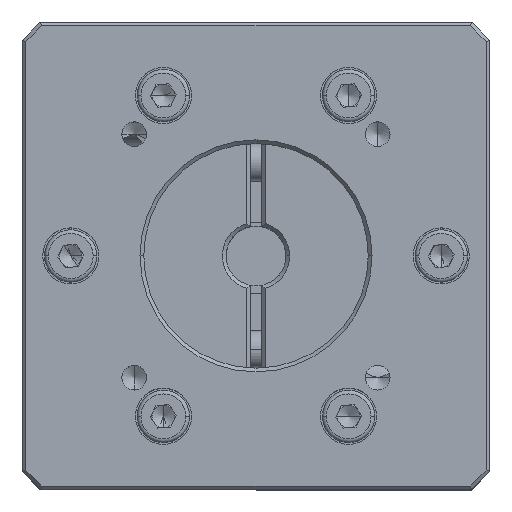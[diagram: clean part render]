
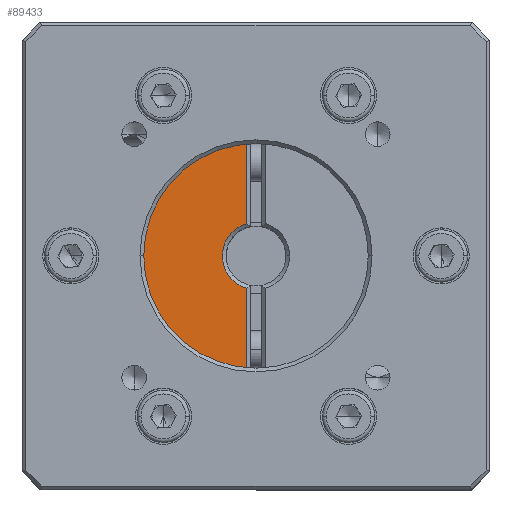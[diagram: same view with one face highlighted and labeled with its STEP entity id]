
A CAD part, top view. The second image highlights one B-rep face of the part: STEP entity #89433.
In plain terms, the highlighted planar face has unit normal (0, 0, 1).
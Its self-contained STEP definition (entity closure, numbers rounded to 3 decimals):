
#9766 = CIRCLE ( 'NONE', #104376, 4.5 ) ;
#10220 = DIRECTION ( 'NONE',  ( 0., 1., 0. ) ) ;
#11509 = CARTESIAN_POINT ( 'NONE',  ( -28.188, -8.922, 185.502 ) ) ;
#11703 = ORIENTED_EDGE ( 'NONE', *, *, #60782, .T. ) ;
#11857 = VERTEX_POINT ( 'NONE', #50099 ) ;
#12021 = AXIS2_PLACEMENT_3D ( 'NONE', #46975, #111132, #56216 ) ;
#12479 = ORIENTED_EDGE ( 'NONE', *, *, #20405, .F. ) ;
#13605 = AXIS2_PLACEMENT_3D ( 'NONE', #75457, #20423, #84651 ) ;
#20405 = EDGE_CURVE ( 'NONE', #11857, #52436, #88732, .T. ) ;
#20423 = DIRECTION ( 'NONE',  ( 0., 0., -1. ) ) ;
#20628 = CARTESIAN_POINT ( 'NONE',  ( -28.188, -8.922, 185.502 ) ) ;
#20727 = DIRECTION ( 'NONE',  ( 0., 1., 0. ) ) ;
#24199 = FACE_OUTER_BOUND ( 'NONE', #91348, .T. ) ;
#29777 = CARTESIAN_POINT ( 'NONE',  ( -28.188, 14.587, 185.502 ) ) ;
#37046 = DIRECTION ( 'NONE',  ( 0., 0., -1. ) ) ;
#37691 = VERTEX_POINT ( 'NONE', #85266 ) ;
#40625 = VECTOR ( 'NONE', #10220, 1000. ) ;
#46975 = CARTESIAN_POINT ( 'NONE',  ( -26.938, 27.764, 185.502 ) ) ;
#50099 = CARTESIAN_POINT ( 'NONE',  ( -28.188, -6.69, 185.502 ) ) ;
#52053 = DIRECTION ( 'NONE',  ( 0., 0., 1. ) ) ;
#52436 = VERTEX_POINT ( 'NONE', #59890 ) ;
#55662 = EDGE_CURVE ( 'NONE', #59947, #100640, #9766, .T. ) ;
#56216 = DIRECTION ( 'NONE',  ( -1., 0., 0. ) ) ;
#59890 = CARTESIAN_POINT ( 'NONE',  ( -43.938, 10.264, 185.502 ) ) ;
#59947 = VERTEX_POINT ( 'NONE', #29777 ) ;
#60782 = EDGE_CURVE ( 'NONE', #11857, #100640, #89378, .T. ) ;
#64303 = AXIS2_PLACEMENT_3D ( 'NONE', #91919, #37046, #101152 ) ;
#67525 = CARTESIAN_POINT ( 'NONE',  ( -28.188, 5.941, 185.502 ) ) ;
#69963 = ORIENTED_EDGE ( 'NONE', *, *, #55662, .F. ) ;
#75457 = CARTESIAN_POINT ( 'NONE',  ( -26.938, 10.264, 185.502 ) ) ;
#79711 = ORIENTED_EDGE ( 'NONE', *, *, #95620, .F. ) ;
#84651 = DIRECTION ( 'NONE',  ( -1., 0., 0. ) ) ;
#85266 = CARTESIAN_POINT ( 'NONE',  ( -28.188, 27.218, 185.502 ) ) ;
#86346 = VECTOR ( 'NONE', #20727, 1000. ) ;
#87145 = ORIENTED_EDGE ( 'NONE', *, *, #93022, .T. ) ;
#88732 = CIRCLE ( 'NONE', #64303, 17. ) ;
#89228 = LINE ( 'NONE', #11509, #86346 ) ;
#89378 = LINE ( 'NONE', #20628, #40625 ) ;
#89433 = ADVANCED_FACE ( 'NONE', ( #24199 ), #91838, .F. ) ;
#91348 = EDGE_LOOP ( 'NONE', ( #12479, #11703, #69963, #87145, #79711 ) ) ;
#91838 = PLANE ( 'NONE',  #12021 ) ;
#91919 = CARTESIAN_POINT ( 'NONE',  ( -26.938, 10.264, 185.502 ) ) ;
#93022 = EDGE_CURVE ( 'NONE', #59947, #37691, #89228, .T. ) ;
#95620 = EDGE_CURVE ( 'NONE', #52436, #37691, #116487, .T. ) ;
#100640 = VERTEX_POINT ( 'NONE', #67525 ) ;
#101152 = DIRECTION ( 'NONE',  ( -1., 0., 0. ) ) ;
#104376 = AXIS2_PLACEMENT_3D ( 'NONE', #106937, #52053, #116141 ) ;
#106937 = CARTESIAN_POINT ( 'NONE',  ( -26.938, 10.264, 185.502 ) ) ;
#111132 = DIRECTION ( 'NONE',  ( 0., 0., -1. ) ) ;
#116141 = DIRECTION ( 'NONE',  ( 0., 1., 0. ) ) ;
#116487 = CIRCLE ( 'NONE', #13605, 17. ) ;
